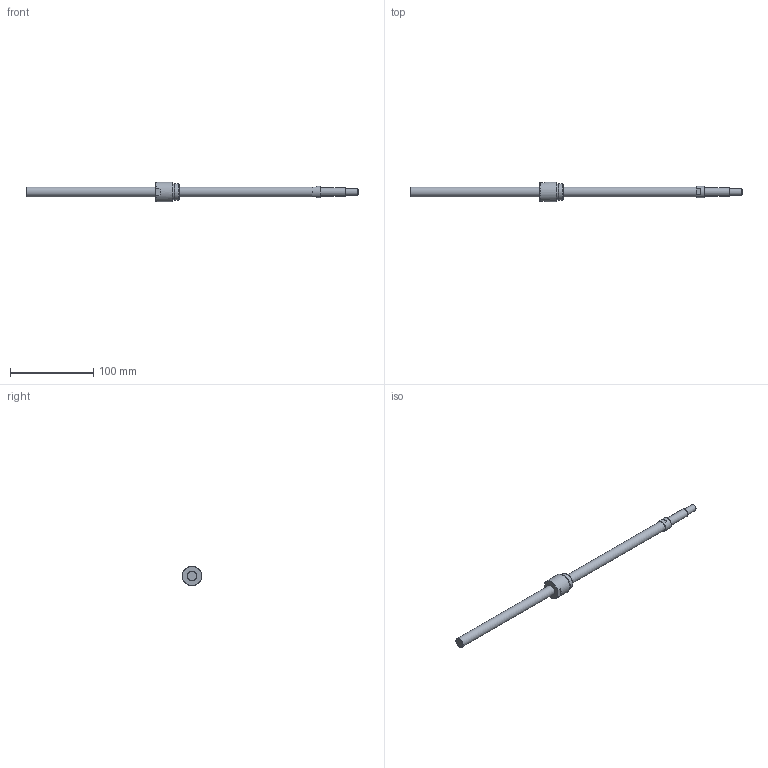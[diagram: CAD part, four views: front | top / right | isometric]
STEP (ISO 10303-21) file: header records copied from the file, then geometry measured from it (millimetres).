
FILE_DESCRIPTION(/* description */ ('STEP AP214'),/* implementation_level */ '2;1');
FILE_NAME(/* name */ 'NSG1202-341R400C5A0X(156.5)',/* time_stamp */ '2026-08-20T15:50:10+02:00',/* author */ ('License CC BY-ND 4.0'),/* organization */ ('CADENAS'),/* preprocessor_version */ 'ST-DEVELOPER v20',/* originating_system */ 'PARTsolutions',/* authorisation */ ' ');
FILE_SCHEMA (('AUTOMOTIVE_DESIGN {1 0 10303 214 3 1 1}'));
Length unit declared in the file: millimetre
Products named in the file (3): NSG1202-341R400C5A0X(156.5); NSG1202-341R400C3A_shaft; NSG1202_nut
Assembly tree (2 placements, depth 2):
  NSG1202-341R400C5A0X(156.5)
    NSG1202-341R400C3A_shaft
    NSG1202_nut
Bounding box: 400 x 24 x 24 mm (x, y, z)
Volume: 51788.9 mm3; surface area: 18763.7 mm2
Topology: 2 solids, 2 shells, 35 faces, 72 edges, 44 vertices
Faces by surface type: plane 17, cone 9, cylinder 8, torus 1
Full cylindrical faces by diameter (mm): 8 x1, 10 x1, 12 x2, 14 x1, 18.4 x1, 20 x1, 24 x1
Entity records: 907 total; most frequent: DIRECTION 158, CARTESIAN_POINT 146, ORIENTED_EDGE 108, AXIS2_PLACEMENT_3D 70, EDGE_LOOP 56, FACE_BOUND 56, EDGE_CURVE 54, VERTEX_POINT 42
